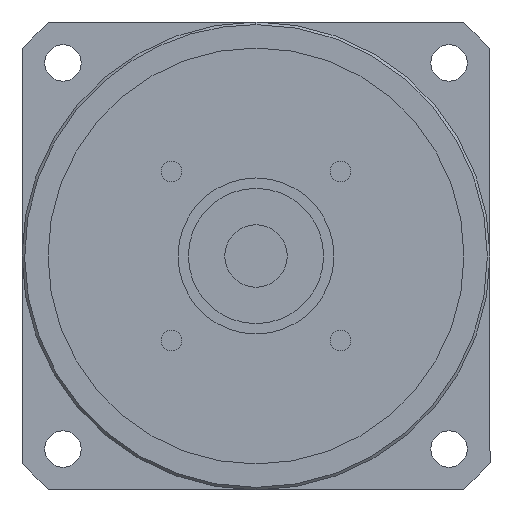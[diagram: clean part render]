
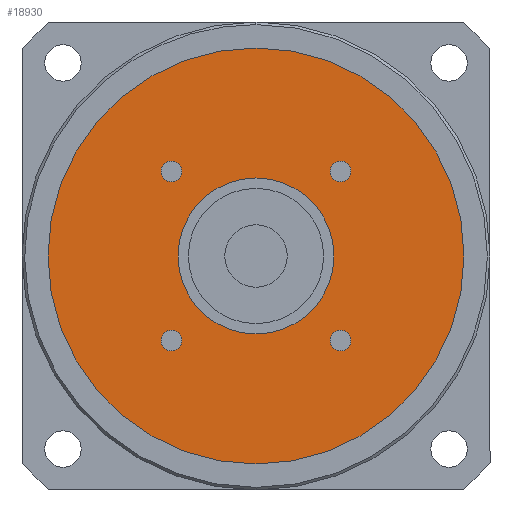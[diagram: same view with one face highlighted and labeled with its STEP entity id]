
A CAD part, left-side view. The second image highlights one B-rep face of the part: STEP entity #18930.
In plain terms, the highlighted planar face has unit normal (-1, 0, 0) as drawn and (0, 0, -1) by its records, which use the part's own axes.
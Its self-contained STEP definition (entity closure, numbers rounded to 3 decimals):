
#15710=CARTESIAN_POINT('',(-14.263,-16.263,-117.));
#15720=VERTEX_POINT('',#15710);
#15900=CARTESIAN_POINT('',(-18.263,-16.263,-117.));
#15910=VERTEX_POINT('',#15900);
#15940=CARTESIAN_POINT('',(-16.263,-16.263,-117.));
#15950=DIRECTION('',(0.,0.,-1.));
#15960=DIRECTION('',(0.,-1.,0.));
#15970=AXIS2_PLACEMENT_3D('',#15940,#15950,#15960);
#15980=CIRCLE('',#15970,2.);
#15990=CARTESIAN_POINT('',(-16.263,-18.263,-117.));
#16000=VERTEX_POINT('',#15990);
#16010=EDGE_CURVE('',#16000,#15910,#15980,.T.);
#16030=EDGE_CURVE('',#15720,#16000,#15980,.T.);
#16130=CARTESIAN_POINT('',(0.,0.,
-117.));
#16140=DIRECTION('',(0.,0.,1.));
#16150=DIRECTION('',(0.,-1.,0.));
#16160=AXIS2_PLACEMENT_3D('',#16130,#16140,#16150);
#16170=CIRCLE('',#16160,15.);
#16180=CARTESIAN_POINT('',(0.,-15.,-117.));
#16190=VERTEX_POINT('',#16180);
#16200=CARTESIAN_POINT('',(15.,0.,-117.));
#16210=VERTEX_POINT('',#16200);
#16220=EDGE_CURVE('',#16190,#16210,#16170,.T.);
#16450=CARTESIAN_POINT('',(-15.,0.,-117.));
#16460=VERTEX_POINT('',#16450);
#16490=EDGE_CURVE('',#16460,#16190,#16170,.T.);
#17860=CARTESIAN_POINT('',(40.,0.,-117.));
#17870=VERTEX_POINT('',#17860);
#17900=CARTESIAN_POINT('',(0.,0.,
-117.));
#17910=DIRECTION('',(0.,0.,1.));
#17920=DIRECTION('',(0.,-1.,0.));
#17930=AXIS2_PLACEMENT_3D('',#17900,#17910,#17920);
#17940=CIRCLE('',#17930,40.);
#17950=CARTESIAN_POINT('',(0.,-40.,-117.));
#17960=VERTEX_POINT('',#17950);
#17970=EDGE_CURVE('',#17960,#17870,#17940,.T.);
#17990=CARTESIAN_POINT('',(-40.,0.,-117.));
#18000=VERTEX_POINT('',#17990);
#18010=EDGE_CURVE('',#18000,#17960,#17940,.T.);
#18130=CARTESIAN_POINT('',(0.,0.,
-117.));
#18140=DIRECTION('',(0.,0.,1.));
#18150=DIRECTION('',(-1.,0.,0.));
#18160=AXIS2_PLACEMENT_3D('',#18130,#18140,#18150);
#18170=PLANE('',#18160);
#18180=CARTESIAN_POINT('',(16.263,-16.263,-117.));
#18190=DIRECTION('',(0.,0.,-1.));
#18200=DIRECTION('',(1.,0.,0.));
#18210=AXIS2_PLACEMENT_3D('',#18180,#18190,#18200);
#18220=CIRCLE('',#18210,2.);
#18230=CARTESIAN_POINT('',(18.263,-16.263,-117.));
#18240=VERTEX_POINT('',#18230);
#18250=CARTESIAN_POINT('',(16.263,-18.263,-117.));
#18260=VERTEX_POINT('',#18250);
#18270=EDGE_CURVE('',#18240,#18260,#18220,.T.);
#18280=ORIENTED_EDGE('',*,*,#18270,.F.);
#18290=CARTESIAN_POINT('',(16.263,-14.263,-117.));
#18300=VERTEX_POINT('',#18290);
#18310=EDGE_CURVE('',#18260,#18300,#18220,.T.);
#18320=ORIENTED_EDGE('',*,*,#18310,.F.);
#18330=EDGE_CURVE('',#18300,#18240,#18220,.T.);
#18340=ORIENTED_EDGE('',*,*,#18330,.F.);
#18350=EDGE_LOOP('',(#18340,#18320,#18280));
#18360=FACE_BOUND('',#18350,.T.);
#18370=CARTESIAN_POINT('',(16.263,16.263,-117.));
#18380=DIRECTION('',(0.,0.,-1.));
#18390=DIRECTION('',(0.,1.,0.));
#18400=AXIS2_PLACEMENT_3D('',#18370,#18380,#18390);
#18410=CIRCLE('',#18400,2.);
#18420=CARTESIAN_POINT('',(16.263,18.263,-117.));
#18430=VERTEX_POINT('',#18420);
#18440=CARTESIAN_POINT('',(18.263,16.263,-117.));
#18450=VERTEX_POINT('',#18440);
#18460=EDGE_CURVE('',#18430,#18450,#18410,.T.);
#18470=ORIENTED_EDGE('',*,*,#18460,.F.);
#18480=CARTESIAN_POINT('',(14.263,16.263,-117.));
#18490=VERTEX_POINT('',#18480);
#18500=EDGE_CURVE('',#18450,#18490,#18410,.T.);
#18510=ORIENTED_EDGE('',*,*,#18500,.F.);
#18520=EDGE_CURVE('',#18490,#18430,#18410,.T.);
#18530=ORIENTED_EDGE('',*,*,#18520,.F.);
#18540=EDGE_LOOP('',(#18530,#18510,#18470));
#18550=FACE_BOUND('',#18540,.T.);
#18560=CARTESIAN_POINT('',(-16.263,16.263,-117.));
#18570=DIRECTION('',(0.,0.,-1.));
#18580=DIRECTION('',(-1.,0.,0.));
#18590=AXIS2_PLACEMENT_3D('',#18560,#18570,#18580);
#18600=CIRCLE('',#18590,2.);
#18610=CARTESIAN_POINT('',(-18.263,16.263,-117.));
#18620=VERTEX_POINT('',#18610);
#18630=CARTESIAN_POINT('',(-16.263,18.263,-117.));
#18640=VERTEX_POINT('',#18630);
#18650=EDGE_CURVE('',#18620,#18640,#18600,.T.);
#18660=ORIENTED_EDGE('',*,*,#18650,.F.);
#18670=CARTESIAN_POINT('',(-16.263,14.263,-117.));
#18680=VERTEX_POINT('',#18670);
#18690=EDGE_CURVE('',#18640,#18680,#18600,.T.);
#18700=ORIENTED_EDGE('',*,*,#18690,.F.);
#18710=EDGE_CURVE('',#18680,#18620,#18600,.T.);
#18720=ORIENTED_EDGE('',*,*,#18710,.F.);
#18730=EDGE_LOOP('',(#18720,#18700,#18660));
#18740=FACE_BOUND('',#18730,.T.);
#18750=ORIENTED_EDGE('',*,*,#16010,.F.);
#18760=EDGE_CURVE('',#15910,#15720,#15980,.T.);
#18770=ORIENTED_EDGE('',*,*,#18760,.F.);
#18780=ORIENTED_EDGE('',*,*,#16030,.F.);
#18790=EDGE_LOOP('',(#18780,#18770,#18750));
#18800=FACE_BOUND('',#18790,.T.);
#18810=ORIENTED_EDGE('',*,*,#17970,.F.);
#18820=EDGE_CURVE('',#17870,#18000,#17940,.T.);
#18830=ORIENTED_EDGE('',*,*,#18820,.F.);
#18840=ORIENTED_EDGE('',*,*,#18010,.F.);
#18850=EDGE_LOOP('',(#18840,#18830,#18810));
#18860=FACE_OUTER_BOUND('',#18850,.T.);
#18870=EDGE_CURVE('',#16210,#16460,#16170,.T.);
#18880=ORIENTED_EDGE('',*,*,#18870,.T.);
#18890=ORIENTED_EDGE('',*,*,#16220,.T.);
#18900=ORIENTED_EDGE('',*,*,#16490,.T.);
#18910=EDGE_LOOP('',(#18900,#18890,#18880));
#18920=FACE_BOUND('',#18910,.T.);
#18930=ADVANCED_FACE('',(#18360,#18550,#18740,#18800,#18860,#18920),
#18170,.F.);
